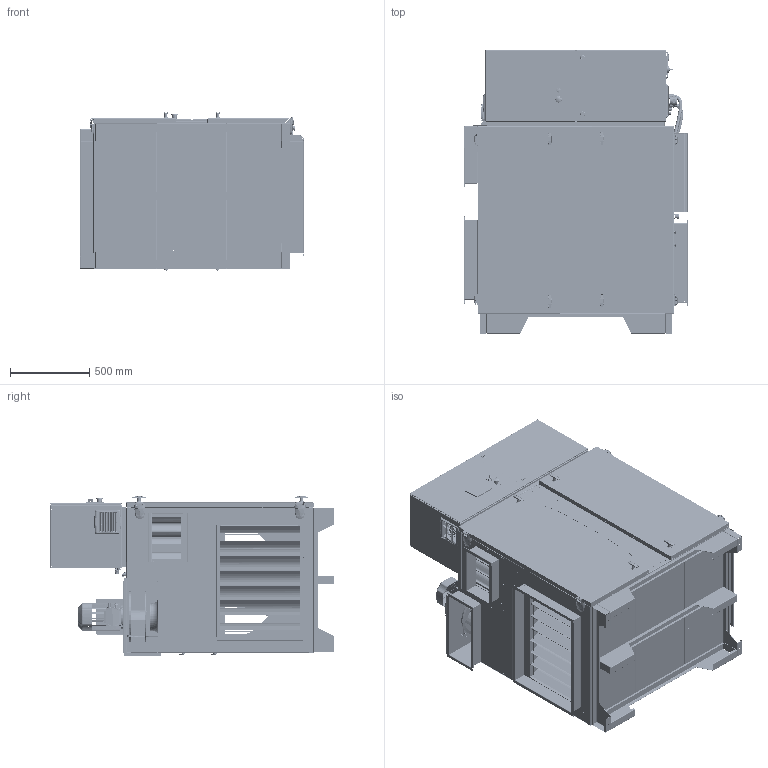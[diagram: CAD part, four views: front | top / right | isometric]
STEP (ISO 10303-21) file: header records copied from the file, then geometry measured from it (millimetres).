
FILE_DESCRIPTION (( 'STEP AP214' ), '1' );
FILE_NAME ('DST28245.STEP', '2026-03-04T08:09:44', ( '' ), ( '' ), 'SwSTEP 2.0', 'SolidWorks 2024', '' );
FILE_SCHEMA (( 'AUTOMOTIVE_DESIGN' ));
Products named in the file (1): DST28245
Bounding box: 1410.99 x 1787 x 1005.9 mm (x, y, z)
Surface area: 26869149 mm2 (no closed solid volume)
Topology: 0 solids, 971 shells, 3517 faces, 21637 edges, 18614 vertices
Faces by surface type: plane 1747, cylinder 1165, torus 208, bspline 200, cone 118, sphere 79
Entity records: 265972 total; most frequent: CARTESIAN_POINT 106517, DIRECTION 31962, ORIENTED_EDGE 25540, EDGE_CURVE 21614, VERTEX_POINT 18614, LINE 10828, VECTOR 10828, AXIS2_PLACEMENT_3D 10567
